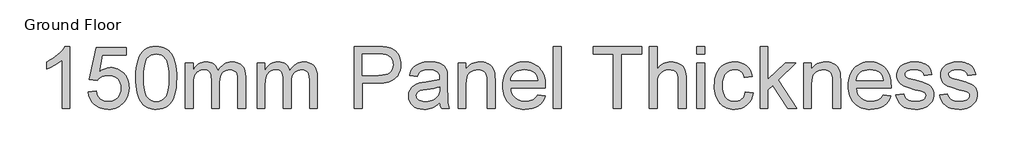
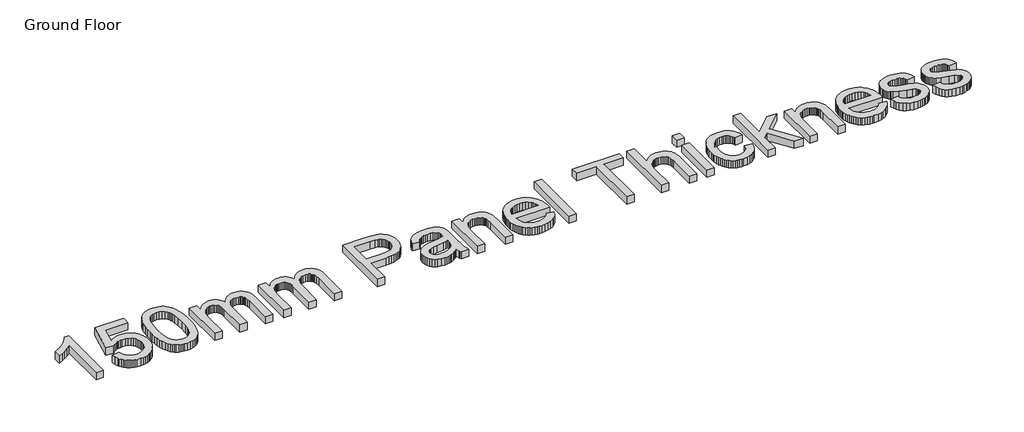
# One storey, part 7 of 7: 1 proxy.
"""IFC4 building model written with IfcOpenShell, lengths in millimetres."""

import ifcopenshell
import ifcopenshell.guid

model = None  # the IFC model being written
_history = None  # IfcOwnerHistory: only IFC2X3 demands one
_inside = {}  # id of a spatial element -> (the spatial element, [elements in it])
_under = {}  # id of a project, library or spatial element -> (it, [spatial elements below it])
_declared = {}  # id of a project -> (the project, [libraries it declares])
_typed = {}  # id of a type object -> (the type object, [elements of that type])
_made_of = {}  # id of a material, layer set ... -> (it, [elements and type objects made of it])


def new_model(schema):
    """Start an empty IFC model of exactly this schema.

    Asked for "IFC4X3", IfcOpenShell would pick the latest addendum, in which some entities
    have other attributes; the version numbers below select the first issue.
    IFC2X3 requires an IfcOwnerHistory on every rooted entity: one is made here for all.
    """
    global model, _history
    if schema == "IFC4X3":
        model = ifcopenshell.file(schema_version=(4, 3, 0, 0))
    else:
        model = ifcopenshell.file(schema=schema)
    _inside.clear()
    _under.clear()
    _declared.clear()
    _typed.clear()
    _made_of.clear()
    _history = None
    if model.schema == "IFC2X3":
        org = make("IfcOrganization", Name="unknown")
        user = make(
            "IfcPersonAndOrganization",
            ThePerson=make("IfcPerson", FamilyName="unknown"),
            TheOrganization=org,
        )
        app = make(
            "IfcApplication",
            ApplicationDeveloper=org,
            Version="unknown",
            ApplicationFullName="unknown",
            ApplicationIdentifier="unknown",
        )
        _history = make(
            "IfcOwnerHistory",
            OwningUser=user,
            OwningApplication=app,
            ChangeAction="ADDED",
            CreationDate=0,
        )
    return model


def make(cls, **values):
    """One entity of the class cls with the attributes given. An attribute that is None is left unset."""
    return model.create_entity(
        cls, **{name: value for name, value in values.items() if value is not None}
    )


def rooted(cls, **values):
    """An entity with a GlobalId (a new one), such as an element, a storey or a relation."""
    return make(cls, GlobalId=ifcopenshell.guid.new(), OwnerHistory=_history, **values)


def si_unit(unit_type, name, prefix=None):
    """IfcSIUnit, for example si_unit("LENGTHUNIT", "METRE", prefix="MILLI")."""
    return make("IfcSIUnit", UnitType=unit_type, Prefix=prefix, Name=name)


def assignment(units):
    """IfcUnitAssignment: the units of a project."""
    return None if units is None else make("IfcUnitAssignment", Units=units)


def point(xyz):
    """IfcCartesianPoint."""
    return None if xyz is None else make("IfcCartesianPoint", Coordinates=xyz)


def direction(xyz):
    """IfcDirection."""
    return None if xyz is None else make("IfcDirection", DirectionRatios=xyz)


def frame(location, z_axis=None, x_axis=None):
    """IfcAxis2Placement3D, a coordinate frame: its origin and axes. An axis left out is left unset."""
    return make(
        "IfcAxis2Placement3D",
        Location=point(location),
        Axis=direction(z_axis),
        RefDirection=direction(x_axis),
    )


def origin():
    """The frame at (0, 0, 0) with its axes left unset."""
    return frame((0.0, 0.0, 0.0))


def origin_with_axes():
    """The frame at (0, 0, 0) with the z axis (0, 0, 1) and the x axis (1, 0, 0) written out."""
    return frame((0.0, 0.0, 0.0), z_axis=(0.0, 0.0, 1.0), x_axis=(1.0, 0.0, 0.0))


def place(relative_to, where):
    """IfcLocalPlacement: puts the frame where relative to a parent placement (None: the world)."""
    return make(
        "IfcLocalPlacement", PlacementRelTo=relative_to, RelativePlacement=where
    )


def context(
    kind, dimensions, precision=None, world=None, true_north=None, identifier=None
):
    """IfcGeometricRepresentationContext, for example the 3D "Model" context."""
    return make(
        "IfcGeometricRepresentationContext",
        ContextIdentifier=identifier,
        ContextType=kind,
        CoordinateSpaceDimension=dimensions,
        Precision=precision,
        WorldCoordinateSystem=world,
        TrueNorth=true_north,
    )


def project(units=None, contexts=None):
    """IfcProject with its units and contexts."""
    return rooted(
        "IfcProject",
        Name="project",
        RepresentationContexts=contexts,
        UnitsInContext=assignment(units),
    )


def spatial(cls, under=None, at=None, **own):
    """A site, building, storey or space (cls), placed at a placement, below another one or the project."""
    s = rooted(cls, ObjectPlacement=at, **own)
    if under is not None:
        _under.setdefault(under.id(), (under, []))[1].append(s)
    return s


def polyline(points):
    """IfcPolyline through the points."""
    return make("IfcPolyline", Points=[point(p) for p in points])


def outline(outer, holes=None, kind="AREA"):
    """IfcArbitraryClosedProfileDef: a profile drawn as a closed curve; with holes, ...WithVoids."""
    if holes is None:
        return make("IfcArbitraryClosedProfileDef", ProfileType=kind, OuterCurve=outer)
    return make(
        "IfcArbitraryProfileDefWithVoids",
        ProfileType=kind,
        OuterCurve=outer,
        InnerCurves=holes,
    )


def extrude(swept, where, along, depth):
    """IfcExtrudedAreaSolid: the profile swept, set in the frame where, extruded along a direction by depth."""
    return make(
        "IfcExtrudedAreaSolid",
        SweptArea=swept,
        Position=where,
        ExtrudedDirection=direction(along),
        Depth=depth,
    )


def shape(context_of_items, identifier, shape_type, items):
    """IfcShapeRepresentation: the items that make up one representation, for example the "Body"."""
    return make(
        "IfcShapeRepresentation",
        ContextOfItems=context_of_items,
        RepresentationIdentifier=identifier,
        RepresentationType=shape_type,
        Items=items,
    )


def made_of(thing, what):
    """Note that an element or type object is made of a material, layer set ...; save() writes the relation."""
    if what is not None:
        _made_of.setdefault(what.id(), (what, []))[1].append(thing)
    return thing


def element(
    cls,
    number,
    at=None,
    inside=None,
    cuts=None,
    type_object=None,
    material=None,
    context=None,
    identifier="Body",
    shape_type=None,
    held_by="IfcProductDefinitionShape",
    body=None,
    shapes=None,
    **own,
):
    """One element of the class cls, such as IfcWall. Its Tag is "e" and its number.

    at: its placement. inside: the storey or other place that contains it. cuts: it is an
    opening in that element (IfcRelVoidsElement). A single representation is given by context,
    identifier, shape_type and body (its items); several are given by shapes. held_by: the class
    of the entity that holds the representations. save() writes the other relations.
    """
    e = rooted(cls, Tag="e%d" % number, ObjectPlacement=at, **own)
    if body is not None:
        shapes = [shape(context, identifier, shape_type, body)]
    if shapes is not None:
        e.Representation = make(held_by, Representations=shapes)
    if inside is not None:
        _inside.setdefault(inside.id(), (inside, []))[1].append(e)
    if cuts is not None:
        rooted(
            "IfcRelVoidsElement", RelatingBuildingElement=cuts, RelatedOpeningElement=e
        )
    if type_object is not None:
        _typed.setdefault(type_object.id(), (type_object, []))[1].append(e)
    return made_of(e, material)


def aggregate(whole, parts):
    """IfcRelAggregates: a whole, such as a stair, and the parts it consists of."""
    return rooted("IfcRelAggregates", RelatingObject=whole, RelatedObjects=parts)


def save(model, path):
    """Write the relations noted so far, then the file.

    IfcRelAggregates (storeys below a building ...), IfcRelContainedInSpatialStructure (elements
    in a storey), IfcRelDefinesByType, IfcRelAssociatesMaterial and IfcRelDeclares: one each for
    every whole, place, type object, material and project.
    """
    for whole, parts in _under.values():
        aggregate(whole, parts)
    for where, things in _inside.values():
        rooted(
            "IfcRelContainedInSpatialStructure",
            RelatedElements=things,
            RelatingStructure=where,
        )
    for kind, things in _typed.values():
        rooted("IfcRelDefinesByType", RelatedObjects=things, RelatingType=kind)
    for what, things in _made_of.values():
        rooted("IfcRelAssociatesMaterial", RelatedObjects=things, RelatingMaterial=what)
    for by, libraries in _declared.values():
        rooted("IfcRelDeclares", RelatingContext=by, RelatedDefinitions=libraries)
    model.write(path)


model = new_model("IFC4")

# Units and contexts
model_context = context("Model", 3, world=origin())
ifc_project = project(units=[si_unit("LENGTHUNIT", "METRE", prefix="MILLI")], contexts=[model_context])

# Site, building, storey
site = spatial("IfcSite", under=ifc_project)
building = spatial("IfcBuilding", under=site)
storey = spatial("IfcBuildingStorey", under=building, Name="Ground Floor", Elevation=0.0)

# Proxy
placement = place(None, origin())
element("IfcBuildingElementProxy", 1, Name="1200mm Arial", ObjectType="1200mm Arial", at=placement, inside=storey, context=model_context, shape_type="SweptSolid", body=[
    extrude(outline(polyline([(11867.9925063, 10511.1336271), (11721.0834154, 10511.1336271), (11721.0834154, 11427.0199908), (11659.7517393, 11377.4166527), (11581.9214836, 11327.8850476), (11500.2176484, 11284.5942095), (11427.2652336, 11253.7131726), (11427.2652336, 11392.5881726), (11486.8842854, 11422.4828814), (11542.647691, 11455.3545078), (11594.5554502, 11491.2030519), (11642.6075631, 11530.0285135), (11685.3693707, 11570.0375689), (11721.4062137, 11609.4368942), (11750.7180922, 11648.2264894), (11773.3050063, 11686.4063544), (11867.9925063, 11686.4063544), (11867.9925063, 10511.1336271)])), origin_with_axes(), (0.0, 0.0, 1.0), 150.0),
    extrude(outline(polyline([(12216.9015972, 10823.3154453), (12363.8106881, 10841.6790817), (12374.7858302, 10794.4518977), (12390.782279, 10753.4834141), (12411.8000347, 10718.7736307), (12437.8390972, 10690.3225476), (12468.8456668, 10668.1660313), (12504.7659438, 10652.3399482), (12545.5999282, 10642.8442983), (12591.3476199, 10639.6790817), (12647.2993245, 10644.0816918), (12696.6515972, 10657.289522), (12739.4044381, 10679.3025725), (12775.5578472, 10710.120843), (12804.3048287, 10748.2200085), (12824.838387, 10792.0757436), (12837.1585219, 10841.6880483), (12841.2652336, 10897.0569226), (12837.4185539, 10949.3861129), (12825.8785148, 10995.904934), (12806.6451164, 11036.6133857), (12779.7183586, 11071.511468), (12745.0085752, 11099.5052536), (12702.4261001, 11119.5008146), (12651.9709332, 11131.4981513), (12593.6430745, 11135.4972635), (12556.3150383, 11133.9012053), (12522.3763841, 11129.1130305), (12491.8271121, 11121.1327394), (12464.6672222, 11109.9603317), (12418.5787989, 11080.6215533), (12382.1743245, 11043.6790817), (12235.2652336, 11062.042718), (12363.8106881, 11668.042718), (12933.0834154, 11668.042718), (12933.0834154, 11521.1336271), (12482.6004609, 11521.1336271), (12419.7623927, 11197.4745362), (12471.6073856, 11234.6322067), (12524.7077052, 11261.1733999), (12579.0633515, 11277.0981158), (12634.6743245, 11282.4063544), (12671.1751901, 11280.7609798), (12706.21898, 11275.8248558), (12739.8056943, 11267.5979826), (12771.935333, 11256.0803601), (12802.607896, 11241.2719883), (12831.8233834, 11223.1728672), (12859.5817952, 11201.7829968), (12885.8831313, 11177.1023771), (12909.8576297, 11149.8348878), (12930.6355283, 11120.6844084), (12948.2168272, 11089.6509389), (12962.6015262, 11056.7344794), (12973.7896254, 11021.9350298), (12981.7811249, 10985.2525902), (12986.5760246, 10946.6871605), (12988.1743245, 10906.2387408), (12982.4177549, 10830.130076), (12965.1480461, 10759.3296499), (12936.3651981, 10693.8374624), (12896.0692109, 10633.6535135), (12866.8200986, 10600.6339379), (12835.0244665, 10572.0169723), (12800.6823145, 10547.8026168), (12763.7936427, 10527.9908715), (12724.3584509, 10512.5817362), (12682.3767393, 10501.5752109), (12637.8485077, 10494.9712958), (12590.7737563, 10492.7699908), (12514.96099, 10498.4279276), (12479.8051173, 10505.5003486), (12446.4829182, 10515.4017379), (12414.9943928, 10528.1320957), (12385.3395411, 10543.6914219), (12357.518363, 10562.0797165), (12331.5308586, 10583.2969794), (12307.8029422, 10606.8500467), (12286.7605283, 10632.2457543), (12268.4036169, 10659.4841021), (12252.732208, 10688.5650902), (12229.4458976, 10752.2549872), (12216.9015972, 10823.3154453)])), origin_with_axes(), (0.0, 0.0, 1.0), 150.0),
    extrude(outline(polyline([(13116.719779, 11089.3012408), (13119.4187314, 11188.1223523), (13127.5155887, 11277.4209141), (13141.0103508, 11357.1969261), (13159.9030177, 11427.4503885), (13184.1128898, 11488.7551648), (13213.5592677, 11541.6851186), (13248.2421512, 11586.24025), (13288.1615404, 11622.420559), (13333.4519346, 11650.4143445), (13384.247833, 11670.4099055), (13440.5492357, 11682.4072422), (13502.3561427, 11686.4063544), (13548.8032307, 11684.0391669), (13592.8831313, 11676.9376044), (13634.5958444, 11665.1016669), (13673.9413699, 11648.5313544), (13709.9692464, 11627.5046321), (13741.729012, 11602.2994652), (13769.2206668, 11572.9158537), (13792.4442109, 11539.3537976), (13812.5653046, 11501.7477962), (13830.7496086, 11460.2323487), (13861.3078472, 11365.4731158), (13872.9823856, 11309.7455767), (13881.3213415, 11245.1410845), (13886.3247151, 11171.6596392), (13887.9925063, 11089.3012408), (13885.3204537, 10991.1077926), (13877.3042961, 10902.2575618), (13863.9440333, 10822.7505483), (13845.2396654, 10752.5867521), (13821.2180922, 10691.255076), (13791.9062137, 10638.2444226), (13757.3040297, 10593.5547919), (13717.4115404, 10557.186184), (13672.0673465, 10529.0040994), (13621.1100489, 10508.8740391), (13564.5396476, 10496.7960028), (13502.3561427, 10492.7699908), (13460.751029, 10494.5184815), (13421.4413699, 10499.7639538), (13384.4271654, 10508.5064077), (13349.7084154, 10520.745843), (13317.2851199, 10536.48226), (13287.157279, 10555.7156584), (13259.3248927, 10578.4460384), (13233.7879609, 10604.6733999), (13206.3501057, 10646.2022972), (13182.5706313, 10693.1739325), (13162.4495376, 10745.5883058), (13145.9868245, 10803.4454169), (13133.1824921, 10866.745266), (13124.0365404, 10935.487853), (13118.5489694, 11009.6731779), (13116.719779, 11089.3012408)]), holes=[polyline([(13263.6288699, 11089.5881726), (13267.9328472, 10961.8766136), (13280.844779, 10858.5004595), (13290.5287279, 10815.9381593), (13302.3646654, 10779.4597102), (13316.3525915, 10749.0651124), (13332.4925063, 10724.7543658), (13368.9328472, 10687.533929), (13409.3902336, 10660.9479027), (13453.8646654, 10644.9962869), (13502.3561427, 10639.6790817), (13550.8476199, 10645.0142202), (13595.3220518, 10661.0196357), (13635.7794381, 10687.6953281), (13672.219779, 10725.0412976), (13688.3596938, 10749.4103272), (13702.3476199, 10779.8363082), (13714.1835574, 10816.3192406), (13723.8675063, 10858.8591243), (13736.7794381, 10962.1097457), (13741.0834154, 11089.5881726), (13736.922904, 11213.9193161), (13724.4413699, 11315.4752465), (13715.0802194, 11357.7125068), (13703.6388131, 11394.2559638), (13690.1171512, 11425.1056176), (13674.5152336, 11450.261468), (13638.6846228, 11489.3021286), (13597.7609722, 11517.1883146), (13551.7442819, 11533.9200263), (13500.6345518, 11539.4972635), (13452.3941398, 11534.5835561), (13408.672904, 11519.842434), (13369.4708444, 11495.273897), (13334.7879609, 11460.8779453), (13318.1100489, 11433.045559), (13303.6558586, 11399.904934), (13291.4253898, 11361.4560703), (13281.4186427, 11317.698968), (13268.0763131, 11214.2600476), (13263.6288699, 11089.5881726)])]), origin_with_axes(), (0.0, 0.0, 1.0), 150.0),
    extrude(outline(polyline([(14053.2652336, 10511.1336271), (14053.2652336, 11374.2245362), (14200.1743245, 11374.2245362), (14200.1743245, 11232.1932862), (14220.6899495, 11266.5802713), (14244.3618245, 11297.4344084), (14271.1899495, 11324.7556975), (14301.1743245, 11348.5441385), (14333.830752, 11367.8134034), (14368.6750347, 11381.5771641), (14405.7071725, 11389.8354205), (14444.9271654, 11392.5881726), (14487.805539, 11389.7816207), (14526.6310006, 11381.3619652), (14561.4035503, 11367.329206), (14592.1231881, 11347.683343), (14618.7002478, 11322.9803068), (14641.0450631, 11293.7760277), (14659.1576341, 11260.0705057), (14673.0379609, 11221.8637408), (14698.8707911, 11261.8772795), (14726.5866114, 11296.5556797), (14756.1854218, 11325.8989414), (14787.6672222, 11349.9070646), (14821.0320127, 11368.5800494), (14856.2797932, 11381.9178956), (14893.4105638, 11389.9206033), (14932.4243245, 11392.5881726), (14991.2363806, 11388.149696), (15042.857208, 11374.8342663), (15087.2868067, 11352.6418835), (15124.5251768, 11321.5725476), (15153.962588, 11281.2675938), (15174.9893103, 11231.3683573), (15187.6053437, 11171.8748381), (15191.8106881, 11102.7870362), (15191.8106881, 10511.1336271), (15044.9015972, 10511.1336271), (15044.9015972, 11039.6620362), (15041.4942819, 11112.9372493), (15031.2723359, 11162.3253885), (15023.0768458, 11180.1420611), (15012.119637, 11196.1474766), (14998.4007094, 11210.341635), (14981.9200631, 11222.7245362), (14963.2784616, 11232.7671499), (14943.0766682, 11239.9404453), (14897.9925063, 11245.6790817), (14856.3604928, 11242.0027678), (14818.4047932, 11230.973826), (14784.1254076, 11212.5922564), (14753.5223359, 11186.858059), (14728.3530354, 11153.0180377), (14710.3749637, 11110.3189965), (14699.5881207, 11058.7609354), (14695.9925063, 10998.3438544), (14695.9925063, 10511.1336271), (14549.0834154, 10511.1336271), (14549.0834154, 11056.0171499), (14546.9583266, 11100.5274482), (14540.5830603, 11139.0839112), (14529.9576164, 11171.6865391), (14515.0819949, 11198.3353317), (14495.3643991, 11219.0482223), (14470.2130319, 11233.8431442), (14439.6278934, 11242.7200973), (14403.6089836, 11245.6790817), (14374.7544026, 11243.7064254), (14347.0116824, 11237.7884567), (14320.3808231, 11227.9251754), (14294.8618245, 11214.1165817), (14271.6203472, 11196.5061413), (14251.8220518, 11175.2373203), (14235.4669381, 11150.3101186), (14222.5550063, 11121.7245362), (14212.763458, 11087.9562479), (14205.7694949, 11047.4809283), (14200.1743245, 10946.4091953), (14200.1743245, 10511.1336271), (14053.2652336, 10511.1336271)])), origin_with_axes(), (0.0, 0.0, 1.0), 150.0),
    extrude(outline(polyline([(15412.1743245, 10511.1336271), (15412.1743245, 11374.2245362), (15559.0834154, 11374.2245362), (15559.0834154, 11232.1932862), (15579.5990404, 11266.5802713), (15603.2709154, 11297.4344084), (15630.0990404, 11324.7556975), (15660.0834154, 11348.5441385), (15692.739843, 11367.8134034), (15727.5841256, 11381.5771641), (15764.6162634, 11389.8354205), (15803.8362563, 11392.5881726), (15846.7146299, 11389.7816207), (15885.5400915, 11381.3619652), (15920.3126412, 11367.329206), (15951.032279, 11347.683343), (15977.6093387, 11322.9803068), (15999.954154, 11293.7760277), (16018.0667251, 11260.0705057), (16031.9470518, 11221.8637408), (16057.779882, 11261.8772795), (16085.4957023, 11296.5556797), (16115.0945127, 11325.8989414), (16146.5763131, 11349.9070646), (16179.9411036, 11368.5800494), (16215.1888841, 11381.9178956), (16252.3196547, 11389.9206033), (16291.3334154, 11392.5881726), (16350.1454715, 11388.149696), (16401.7662989, 11374.8342663), (16446.1958976, 11352.6418835), (16483.4342677, 11321.5725476), (16512.8716789, 11281.2675938), (16533.8984012, 11231.3683573), (16546.5144346, 11171.8748381), (16550.719779, 11102.7870362), (16550.719779, 10511.1336271), (16403.8106881, 10511.1336271), (16403.8106881, 11039.6620362), (16400.4033728, 11112.9372493), (16390.1814268, 11162.3253885), (16381.9859367, 11180.1420611), (16371.0287279, 11196.1474766), (16357.3098003, 11210.341635), (16340.829154, 11222.7245362), (16322.1875525, 11232.7671499), (16301.9857591, 11239.9404453), (16256.9015972, 11245.6790817), (16215.2695837, 11242.0027678), (16177.3138841, 11230.973826), (16143.0344985, 11212.5922564), (16112.4314268, 11186.858059), (16087.2621263, 11153.0180377), (16069.2840546, 11110.3189965), (16058.4972116, 11058.7609354), (16054.9015972, 10998.3438544), (16054.9015972, 10511.1336271), (15907.9925063, 10511.1336271), (15907.9925063, 11056.0171499), (15905.8674175, 11100.5274482), (15899.4921512, 11139.0839112), (15888.8667073, 11171.6865391), (15873.9910859, 11198.3353317), (15854.27349, 11219.0482223), (15829.1221228, 11233.8431442), (15798.5369843, 11242.7200973), (15762.5180745, 11245.6790817), (15733.6634935, 11243.7064254), (15705.9207734, 11237.7884567), (15679.289914, 11227.9251754), (15653.7709154, 11214.1165817), (15630.5294381, 11196.5061413), (15610.7311427, 11175.2373203), (15594.376029, 11150.3101186), (15581.4640972, 11121.7245362), (15571.6725489, 11087.9562479), (15564.6785859, 11047.4809283), (15559.0834154, 10946.4091953), (15559.0834154, 10511.1336271), (15412.1743245, 10511.1336271)])), origin_with_axes(), (0.0, 0.0, 1.0), 150.0),
    extrude(outline(polyline([(17248.5379609, 10511.1336271), (17248.5379609, 11686.4063544), (17684.1004609, 11686.4063544), (17785.5308586, 11683.6087692), (17859.7027336, 11675.2160135), (17900.581551, 11666.4018267), (17937.9992535, 11654.3058573), (17971.9558408, 11638.9281051), (18002.4513131, 11620.2685703), (18029.8084687, 11597.9416882), (18054.3501057, 11571.5618942), (18076.0762243, 11541.1291882), (18094.9868245, 11506.6435703), (18110.3018103, 11469.2438011), (18121.2410859, 11430.0686413), (18127.8046512, 11389.1180909), (18129.9925063, 11346.3921499), (18124.0835042, 11274.2467308), (18116.6972515, 11240.3394599), (18106.3564978, 11207.8758146), (18093.061243, 11176.8557951), (18076.8114871, 11147.2794013), (18057.6072302, 11119.1466332), (18035.4484722, 11092.4574908), (18009.4340679, 11068.1131193), (17978.6628721, 11047.0146641), (17943.1348847, 11029.162125), (17902.8501057, 11014.5555021), (17857.8085352, 11003.1947955), (17808.0101732, 10995.080005), (17753.4550196, 10990.2111307), (17694.1430745, 10988.5881726), (17395.4470518, 10988.5881726), (17395.4470518, 10511.1336271), (17248.5379609, 10511.1336271)]), holes=[polyline([(17395.4470518, 11135.4972635), (17702.751029, 11135.4972635), (17773.4079893, 11138.8687124), (17833.0180745, 11148.983059), (17881.5812847, 11165.8403033), (17919.0976199, 11189.4404453), (17947.0914055, 11219.1558217), (17967.0869665, 11254.3587692), (17979.0843032, 11295.0492877), (17983.0834154, 11341.2273771), (17980.7251945, 11375.5157294), (17973.6505319, 11407.2216953), (17961.8594275, 11436.3452749), (17945.3518813, 11462.886468), (17925.0066221, 11485.9844794), (17901.7023785, 11504.7785135), (17875.4391505, 11519.2685703), (17846.2169381, 11529.4546499), (17789.547904, 11536.9866101), (17699.3078472, 11539.4972635), (17395.4470518, 11539.4972635), (17395.4470518, 11135.4972635)])]), origin_with_axes(), (0.0, 0.0, 1.0), 150.0),
    extrude(outline(polyline([(18864.5379609, 10621.3154453), (18829.7026448, 10588.6231513), (18794.3472648, 10561.1314965), (18758.4718209, 10538.8404808), (18722.0763131, 10521.7501044), (18684.7482769, 10509.0713047), (18646.0752478, 10500.0150192), (18606.0572258, 10494.5812479), (18564.6942109, 10492.7699908), (18499.2827229, 10497.1277678), (18441.9232591, 10510.2010987), (18392.6158195, 10531.9899837), (18351.360404, 10562.4944226), (18318.784676, 10599.7776257), (18295.5162989, 10641.9028033), (18281.5552726, 10688.8699553), (18276.9015972, 10740.6790817), (18278.6590546, 10771.8291172), (18283.9314268, 10801.5803601), (18292.7187137, 10829.9328104), (18305.0209154, 10856.886468), (18320.1834687, 10881.8495362), (18337.5518103, 10904.230218), (18357.1259403, 10924.0285135), (18378.9058586, 10941.2444226), (18427.5049353, 10969.2202749), (18481.7709154, 10989.448968), (18534.6381029, 11000.7110419), (18608.8817109, 11011.542718), (18759.0905177, 11034.7841953), (18817.0866114, 11047.911326), (18863.6771654, 11062.042718), (18864.5379609, 11094.7529453), (18862.0093742, 11130.3683573), (18854.4236143, 11160.3168658), (18841.780681, 11184.5984709), (18824.0805745, 11203.2131726), (18793.4864694, 11221.7920078), (18756.2211995, 11235.0626044), (18712.2847648, 11243.0249624), (18661.6771654, 11245.6790817), (18614.6203472, 11243.9126577), (18574.1629609, 11238.6133857), (18540.3050063, 11229.7812656), (18513.0464836, 11217.4162976), (18490.6478685, 11200.5500867), (18471.369637, 11178.2142379), (18455.211789, 11150.4087514), (18442.1743245, 11117.1336271), (18295.2652336, 11135.4972635), (18306.4466079, 11177.8197067), (18320.7662989, 11215.8381726), (18338.2243067, 11249.5526612), (18358.8206313, 11278.9631726), (18383.442968, 11304.6615036), (18412.979012, 11327.239451), (18447.4287634, 11346.6970149), (18486.7922222, 11363.0341953), (18530.2713593, 11375.9640604), (18577.0681455, 11385.1996783), (18627.1825809, 11390.741049), (18680.6146654, 11392.5881726), (18732.8452229, 11390.9562479), (18779.928941, 11386.0604737), (18821.8658195, 11377.9008502), (18858.6558586, 11366.4773771), (18890.6039232, 11352.5880838), (18918.0148785, 11337.0309993), (18940.8887243, 11319.8061236), (18959.2254609, 11300.9134567), (18974.0921157, 11279.8867344), (18986.5557165, 11256.2596925), (19004.2737563, 11201.2046499), (19009.6537279, 11150.417718), (19011.4470518, 11072.6591953), (19011.4470518, 10889.8836271), (19013.3121086, 10730.6723345), (19018.907279, 10634.6577749), (19029.954154, 10571.5686413), (19048.1743245, 10511.1336271), (18901.2652336, 10511.1336271), (18888.2098359, 10535.6662976), (18877.7368245, 10562.2074908), (18864.5379609, 10621.3154453)]), holes=[polyline([(18864.5379609, 10915.1336271), (18820.135262, 10902.4189609), (18765.8334154, 10890.6726896), (18627.532279, 10870.0853317), (18551.3160148, 10858.8232578), (18501.1388131, 10846.2699908), (18468.2492535, 10829.9866101), (18443.8959154, 10807.5341953), (18428.8319949, 10780.6343374), (18423.8106881, 10751.0086271), (18426.545507, 10728.1796144), (18434.7499637, 10707.3232578), (18448.4240582, 10688.4395575), (18467.5677904, 10671.5285135), (18492.001828, 10657.5943871), (18521.5468387, 10647.6414396), (18556.2028224, 10641.6696712), (18595.969779, 10639.6790817), (18636.5706313, 10641.8759034), (18674.876029, 10648.4663686), (18710.8859722, 10659.4504773), (18744.6004609, 10674.8282294), (18775.0152336, 10693.3263651), (18801.126029, 10713.6716243), (18822.9328472, 10735.8640071), (18840.4356881, 10759.9035135), (18850.6038344, 10781.4233999), (18857.8667961, 10807.5341953), (18862.2245731, 10838.2358999), (18863.6771654, 10873.5285135), (18864.5379609, 10915.1336271)])]), origin_with_axes(), (0.0, 0.0, 1.0), 150.0),
    extrude(outline(polyline([(19213.4470518, 10511.1336271), (19213.4470518, 11374.2245362), (19360.3561427, 11374.2245362), (19360.3561427, 11253.7131726), (19384.5929147, 11286.2620007), (19411.3941398, 11314.4709851), (19440.7598181, 11338.3401257), (19472.6899495, 11357.8694226), (19507.184534, 11373.0588757), (19544.2435716, 11383.9084851), (19583.8670624, 11390.4182507), (19626.0550063, 11392.5881726), (19663.0243778, 11390.8396818), (19698.4694239, 11385.5942095), (19732.3901448, 11376.8517557), (19764.7865404, 11364.6123203), (19794.4301839, 11349.5304666), (19820.0926484, 11332.2607578), (19841.7739339, 11312.8031939), (19859.4740404, 11291.1577749), (19886.194566, 11241.4109709), (19903.5180745, 11183.1279453), (19909.3284438, 11127.3914396), (19911.2652336, 11041.0966953), (19911.2652336, 10511.1336271), (19764.3561427, 10511.1336271), (19764.3561427, 11021.2983999), (19760.1238984, 11097.2635987), (19754.833593, 11127.0148416), (19747.4271654, 11151.2785135), (19737.3397187, 11171.7134389), (19724.0063557, 11189.9784425), (19707.4270766, 11206.0735242), (19687.6018813, 11219.998684), (19665.2122329, 11231.233858), (19640.9395944, 11239.2589823), (19614.7839658, 11244.0740568), (19586.7453472, 11245.6790817), (19542.1364161, 11242.0745007), (19500.7016682, 11231.2607578), (19462.4411036, 11213.237853), (19427.3547222, 11188.0057862), (19411.6519301, 11171.9689876), (19398.0428437, 11152.6952394), (19386.5274628, 11130.1845416), (19377.1057876, 11104.4368942), (19364.5435539, 11043.2307507), (19360.3561427, 10969.076809), (19360.3561427, 10511.1336271), (19213.4470518, 10511.1336271)])), origin_with_axes(), (0.0, 0.0, 1.0), 150.0),
    extrude(outline(polyline([(20717.5436427, 10768.2245362), (20861.5834154, 10749.8608999), (20839.498632, 10692.1696712), (20809.6846228, 10641.3289396), (20772.1413877, 10597.3387053), (20726.8689268, 10560.198968), (20674.3335042, 10530.6987905), (20615.0013841, 10509.6272351), (20548.8725667, 10496.9843019), (20475.9470518, 10492.7699908), (20429.127849, 10494.5879728), (20384.7923998, 10500.041919), (20342.9407041, 10509.1318294), (20303.572762, 10521.8577038), (20266.6885734, 10538.2195424), (20232.2881384, 10558.2173452), (20200.3714569, 10581.851112), (20170.938529, 10609.120843), (20144.5094186, 10639.6723567), (20121.6041895, 10673.1514716), (20102.2228419, 10709.5581877), (20086.3653756, 10748.892505), (20074.0317908, 10791.1544235), (20065.2220873, 10836.3439432), (20059.9362652, 10884.4610641), (20058.1743245, 10935.5057862), (20059.9541984, 10988.2877908), (20065.2938202, 11038.0301115), (20074.1931899, 11084.7327482), (20086.6523074, 11128.395701), (20102.6711729, 11169.0189698), (20122.2497861, 11206.6025547), (20145.3881473, 11241.1464556), (20172.0862563, 11272.6506726), (20201.6223003, 11300.7610242), (20233.2744665, 11325.1233288), (20267.0427549, 11345.7375867), (20302.9271654, 11362.6037976), (20340.9276981, 11375.7219617), (20381.0443529, 11385.0920788), (20423.2771299, 11390.7141492), (20467.626029, 11392.5881726), (20510.5245775, 11390.7186325), (20551.4190866, 11385.1100121), (20590.3095562, 11375.7623114), (20627.1959864, 11362.6755305), (20662.0783772, 11345.8496694), (20694.9567286, 11325.284728), (20725.8310406, 11300.9807063), (20754.7013131, 11272.9376044), (20780.8278002, 11241.5051204), (20803.4707556, 11207.0329524), (20822.6301794, 11169.5211005), (20838.3060716, 11128.9695646), (20850.4984323, 11085.3783448), (20859.2072613, 11038.7474411), (20864.4325587, 10989.0768533), (20866.1743245, 10936.3665817), (20865.313529, 10896.7699908), (20205.0834154, 10896.7699908), (20213.5927371, 10838.1462337), (20230.5127478, 10786.8033715), (20255.8434474, 10742.7414041), (20289.5848359, 10705.9603317), (20329.8718564, 10676.9622848), (20374.8394523, 10656.2493942), (20424.4876235, 10643.8216598), (20478.8163699, 10639.6790817), (20519.4530887, 10641.5979382), (20557.0052904, 10647.3545078), (20591.4729751, 10656.9487905), (20622.8561427, 10670.3807862), (20651.1547932, 10688.0091598), (20676.3689268, 10710.192576), (20698.4985432, 10736.9310348), (20717.5436427, 10768.2245362)]), holes=[polyline([(20205.0834154, 11043.6790817), (20719.2652336, 11043.6790817), (20711.7153401, 11085.2483288), (20699.3952052, 11121.2941385), (20682.3048287, 11151.8165107), (20660.4442109, 11176.8154453), (20620.3813557, 11206.9432862), (20574.7950631, 11228.4631726), (20523.685333, 11241.3751044), (20467.0521654, 11245.6790817), (20415.3954715, 11242.2448665), (20368.0248216, 11231.9422209), (20324.9402158, 11214.7711449), (20286.141654, 11190.7316385), (20253.5838593, 11160.9355625), (20229.2215546, 11126.4947777), (20213.05474, 11087.4092841), (20205.0834154, 11043.6790817)])]), origin_with_axes(), (0.0, 0.0, 1.0), 150.0),
    extrude(outline(polyline([(21013.0834154, 10511.1336271), (21013.0834154, 11686.4063544), (21159.9925063, 11686.4063544), (21159.9925063, 10511.1336271), (21013.0834154, 10511.1336271)])), origin_with_axes(), (0.0, 0.0, 1.0), 150.0),
    extrude(outline(polyline([(22151.6288699, 10511.1336271), (22151.6288699, 11539.4972635), (21765.9925063, 11539.4972635), (21765.9925063, 11686.4063544), (22684.1743245, 11686.4063544), (22684.1743245, 11539.4972635), (22298.5379609, 11539.4972635), (22298.5379609, 10511.1336271), (22151.6288699, 10511.1336271)])), origin_with_axes(), (0.0, 0.0, 1.0), 150.0),
    extrude(outline(polyline([(22831.0834154, 10511.1336271), (22831.0834154, 11686.4063544), (22977.9925063, 11686.4063544), (22977.9925063, 11254.2870362), (23004.1436515, 11286.7013651), (23031.9536214, 11314.7937834), (23061.4224158, 11338.5642912), (23092.5500347, 11358.0128885), (23125.3364783, 11373.1395753), (23159.7817464, 11383.9443516), (23195.885839, 11390.4272173), (23233.6487563, 11392.5881726), (23279.5757805, 11390.2299517), (23322.3824211, 11383.1552891), (23362.0686782, 11371.3641847), (23398.6345518, 11354.8566385), (23431.1475134, 11334.188581), (23458.6750347, 11309.9159425), (23481.2171157, 11282.038723), (23498.7737563, 11250.5569226), (23511.9546867, 11213.5247848), (23521.369637, 11168.9965533), (23527.0186072, 11116.972228), (23528.9015972, 11057.451809), (23528.9015972, 10511.1336271), (23381.9925063, 10511.1336271), (23381.9925063, 11042.2444226), (23379.0693884, 11091.8477607), (23370.3000347, 11134.2060703), (23355.6844452, 11169.3193516), (23335.2226199, 11197.1876044), (23309.3987563, 11218.4026257), (23278.6970518, 11233.5562124), (23243.1175063, 11242.6483644), (23202.6601199, 11245.6790817), (23171.142453, 11243.6346925), (23140.5752478, 11237.5015249), (23110.9585042, 11227.2795788), (23082.2922222, 11212.9688544), (23056.127627, 11195.1611484), (23034.0159438, 11174.4482578), (23015.9571725, 11150.8301825), (23001.9513131, 11124.3069226), (22991.4693351, 11093.6590178), (22983.982208, 11057.6670078), (22979.4899317, 11016.3308928), (22977.9925063, 10969.6506726), (22977.9925063, 10511.1336271), (22831.0834154, 10511.1336271)])), origin_with_axes(), (0.0, 0.0, 1.0), 150.0),
    extrude(outline(polyline([(23730.9015972, 10511.1336271), (23730.9015972, 11374.2245362), (23877.8106881, 11374.2245362), (23877.8106881, 10511.1336271), (23730.9015972, 10511.1336271)])), origin_with_axes(), (0.0, 0.0, 1.0), 150.0),
    extrude(outline(polyline([(23730.9015972, 11539.4972635), (23730.9015972, 11686.4063544), (23877.8106881, 11686.4063544), (23877.8106881, 11539.4972635), (23730.9015972, 11539.4972635)])), origin_with_axes(), (0.0, 0.0, 1.0), 150.0),
    extrude(outline(polyline([(24649.0834154, 10823.3154453), (24795.9925063, 10804.951809), (24780.0139907, 10735.630875), (24755.0329893, 10674.2902323), (24721.049502, 10620.9298807), (24678.063529, 10575.5498203), (24627.8863273, 10539.3336449), (24572.329154, 10513.4649482), (24511.3920091, 10497.9437301), (24445.0748927, 10492.7699908), (24402.8129742, 10494.5745229), (24362.6806278, 10499.9881193), (24324.6778534, 10509.01078), (24288.8046512, 10521.642505), (24255.061021, 10537.8832942), (24223.446963, 10557.7331477), (24193.962477, 10581.1920655), (24166.6075631, 10608.2600476), (24141.9605683, 10638.6994785), (24120.5998394, 10672.2727429), (24102.5253765, 10708.9798407), (24087.7371796, 10748.820772), (24076.2352487, 10791.7955368), (24068.0195837, 10837.904135), (24063.0901848, 10887.1465666), (24061.4470518, 10939.5228317), (24064.2536036, 11007.068375), (24072.6732591, 11070.2561413), (24086.7060184, 11129.0861307), (24106.3518813, 11183.558343), (24131.7453472, 11232.5788509), (24163.0209154, 11275.0537266), (24200.1785859, 11310.9829702), (24243.2183586, 11340.3665817), (24290.1944772, 11363.2135277), (24339.1611853, 11379.5327749), (24390.1184829, 11389.3243232), (24443.0663699, 11392.5881726), (24508.2447258, 11388.1048629), (24567.2002478, 11374.654934), (24619.932936, 11352.2383857), (24666.4427904, 11320.855218), (24705.9407485, 11281.2227607), (24737.6377478, 11234.058343), (24761.5337883, 11179.3619652), (24777.6288699, 11117.1336271), (24630.719779, 11098.7699908), (24619.2514729, 11133.0852429), (24604.0709864, 11162.8633857), (24585.1783195, 11188.104419), (24562.5734722, 11208.808343), (24536.8303082, 11224.9392912), (24508.522691, 11236.461397), (24477.6506207, 11243.3746605), (24444.2140972, 11245.6790817), (24394.2969275, 11241.1419723), (24349.2755319, 11227.5306442), (24309.1499104, 11204.8450973), (24273.9200631, 11173.0853317), (24258.5535193, 11153.6188011), (24245.2358479, 11131.5160845), (24224.7471228, 11079.402093), (24212.4538877, 11016.7433573), (24208.3561427, 10943.5398771), (24212.3642215, 10869.2335028), (24224.388458, 10805.8484709), (24244.4288522, 10753.3847813), (24257.4551084, 10731.2484398), (24272.485404, 10711.842434), (24307.015855, 10680.2709673), (24346.4779466, 10657.7199198), (24390.8716789, 10644.1892912), (24440.1970518, 10639.6790817), (24479.9460752, 10642.4946002), (24516.2698501, 10650.9411555), (24549.1683763, 10665.0187479), (24578.641654, 10684.7273771), (24603.8647542, 10710.2822422), (24624.0127478, 10741.8985419), (24639.0856349, 10779.5762763), (24649.0834154, 10823.3154453)])), origin_with_axes(), (0.0, 0.0, 1.0), 150.0),
    extrude(outline(polyline([(24924.5379609, 10511.1336271), (24924.5379609, 11686.4063544), (25071.4470518, 11686.4063544), (25071.4470518, 11054.8694226), (25400.844779, 11374.2245362), (25603.9925063, 11374.2245362), (25270.5777336, 11050.8523771), (25622.3561427, 10511.1336271), (25450.7709154, 10511.1336271), (25165.2737563, 10948.7046499), (25071.4470518, 10857.7472635), (25071.4470518, 10511.1336271), (24924.5379609, 10511.1336271)])), origin_with_axes(), (0.0, 0.0, 1.0), 150.0),
    extrude(outline(polyline([(25750.9015972, 10511.1336271), (25750.9015972, 11374.2245362), (25897.8106881, 11374.2245362), (25897.8106881, 11253.7131726), (25922.0474601, 11286.2620007), (25948.8486853, 11314.4709851), (25978.2143635, 11338.3401257), (26010.1444949, 11357.8694226), (26044.6390795, 11373.0588757), (26081.6981171, 11383.9084851), (26121.3216079, 11390.4182507), (26163.5095518, 11392.5881726), (26200.4789232, 11390.8396818), (26235.9239694, 11385.5942095), (26269.8446903, 11376.8517557), (26302.2410859, 11364.6123203), (26331.8847293, 11349.5304666), (26357.5471938, 11332.2607578), (26379.2284793, 11312.8031939), (26396.9285859, 11291.1577749), (26423.6491114, 11241.4109709), (26440.9726199, 11183.1279453), (26446.7829893, 11127.3914396), (26448.719779, 11041.0966953), (26448.719779, 10511.1336271), (26301.8106881, 10511.1336271), (26301.8106881, 11021.2983999), (26297.5784438, 11097.2635987), (26292.2881384, 11127.0148416), (26284.8817109, 11151.2785135), (26274.7942641, 11171.7134389), (26261.4609012, 11189.9784425), (26244.8816221, 11206.0735242), (26225.0564268, 11219.998684), (26202.6667783, 11231.233858), (26178.3941398, 11239.2589823), (26152.2385113, 11244.0740568), (26124.1998927, 11245.6790817), (26079.5909616, 11242.0745007), (26038.1562137, 11231.2607578), (25999.8956491, 11213.237853), (25964.8092677, 11188.0057862), (25949.1064756, 11171.9689876), (25935.4973891, 11152.6952394), (25923.9820083, 11130.1845416), (25914.560333, 11104.4368942), (25901.9980993, 11043.2307507), (25897.8106881, 10969.076809), (25897.8106881, 10511.1336271), (25750.9015972, 10511.1336271)])), origin_with_axes(), (0.0, 0.0, 1.0), 150.0),
    extrude(outline(polyline([(27254.9981881, 10768.2245362), (27399.0379609, 10749.8608999), (27376.9531775, 10692.1696712), (27347.1391682, 10641.3289396), (27309.5959332, 10597.3387053), (27264.3234722, 10560.198968), (27211.7880496, 10530.6987905), (27152.4559296, 10509.6272351), (27086.3271121, 10496.9843019), (27013.4015972, 10492.7699908), (26966.5823944, 10494.5879728), (26922.2469452, 10500.041919), (26880.3952496, 10509.1318294), (26841.0273074, 10521.8577038), (26804.1431189, 10538.2195424), (26769.7426839, 10558.2173452), (26737.8260024, 10581.851112), (26708.3930745, 10609.120843), (26681.963964, 10639.6723567), (26659.058735, 10673.1514716), (26639.6773873, 10709.5581877), (26623.8199211, 10748.892505), (26611.4863362, 10791.1544235), (26602.6766327, 10836.3439432), (26597.3908106, 10884.4610641), (26595.6288699, 10935.5057862), (26597.4087439, 10988.2877908), (26602.7483657, 11038.0301115), (26611.6477354, 11084.7327482), (26624.1068529, 11128.395701), (26640.1257183, 11169.0189698), (26659.7043316, 11206.6025547), (26682.8426927, 11241.1464556), (26709.5408018, 11272.6506726), (26739.0768458, 11300.7610242), (26770.729012, 11325.1233288), (26804.4973003, 11345.7375867), (26840.3817109, 11362.6037976), (26878.3822435, 11375.7219617), (26918.4988984, 11385.0920788), (26960.7316753, 11390.7141492), (27005.0805745, 11392.5881726), (27047.979123, 11390.7186325), (27088.873632, 11385.1100121), (27127.7641017, 11375.7623114), (27164.6505319, 11362.6755305), (27199.5329227, 11345.8496694), (27232.4112741, 11325.284728), (27263.285586, 11300.9807063), (27292.1558586, 11272.9376044), (27318.2823456, 11241.5051204), (27340.925301, 11207.0329524), (27360.0847249, 11169.5211005), (27375.7606171, 11128.9695646), (27387.9529777, 11085.3783448), (27396.6618067, 11038.7474411), (27401.8871041, 10989.0768533), (27403.6288699, 10936.3665817), (27402.7680745, 10896.7699908), (26742.5379609, 10896.7699908), (26751.0472826, 10838.1462337), (26767.9672932, 10786.8033715), (26793.2979928, 10742.7414041), (26827.0393813, 10705.9603317), (26867.3264019, 10676.9622848), (26912.2939978, 10656.2493942), (26961.9421689, 10643.8216598), (27016.2709154, 10639.6790817), (27056.9076341, 10641.5979382), (27094.4598359, 10647.3545078), (27128.9275205, 10656.9487905), (27160.3106881, 10670.3807862), (27188.6093387, 10688.0091598), (27213.8234722, 10710.192576), (27235.9530887, 10736.9310348), (27254.9981881, 10768.2245362)]), holes=[polyline([(26742.5379609, 11043.6790817), (27256.719779, 11043.6790817), (27249.1698856, 11085.2483288), (27236.8497506, 11121.2941385), (27219.7593742, 11151.8165107), (27197.8987563, 11176.8154453), (27157.8359012, 11206.9432862), (27112.2496086, 11228.4631726), (27061.1398785, 11241.3751044), (27004.5067109, 11245.6790817), (26952.850017, 11242.2448665), (26905.4793671, 11231.9422209), (26862.3947613, 11214.7711449), (26823.5961995, 11190.7316385), (26791.0384047, 11160.9355625), (26766.6761001, 11126.4947777), (26750.5092854, 11087.4092841), (26742.5379609, 11043.6790817)])]), origin_with_axes(), (0.0, 0.0, 1.0), 150.0),
    extrude(outline(polyline([(27495.4470518, 10768.2245362), (27642.3561427, 10786.5881726), (27651.2330958, 10753.0888828), (27665.525887, 10723.7501044), (27685.2345162, 10698.5718374), (27710.3589836, 10677.5540817), (27740.9710219, 10660.9837692), (27777.1423643, 10649.1478317), (27818.8730106, 10642.0462692), (27866.1629609, 10639.6790817), (27913.3991114, 10641.8490036), (27954.1075631, 10648.3587692), (27988.288316, 10659.2083786), (28015.9413699, 10674.3978317), (28037.2819239, 10692.5104027), (28052.5251768, 10712.1293658), (28061.6711285, 10733.2547209), (28064.719779, 10755.886468), (28061.6531952, 10775.72063), (28052.4534438, 10793.3310703), (28037.1205248, 10808.7177891), (28015.6544381, 10821.8807862), (27960.635262, 10840.5313544), (27864.4413699, 10863.7728317), (27730.3724779, 10902.5444936), (27643.2169381, 10935.6492521), (27613.2953295, 10952.2464645), (27587.2293671, 10971.7667948), (27565.019051, 10994.2102429), (27546.6643813, 11019.576809), (27532.2908905, 11047.1043303), (27522.0241114, 11076.0306442), (27515.8640439, 11106.3557507), (27513.8106881, 11138.0796499), (27515.4605461, 11167.0866634), (27520.4101199, 11194.9997493), (27528.6594097, 11221.8189077), (27540.2084154, 11247.5441385), (27554.608806, 11271.6553778), (27571.4122506, 11293.6325618), (27590.6187492, 11313.4756903), (27612.2283018, 11331.1847635), (27652.7932876, 11354.820772), (27705.6246086, 11374.654934), (27766.7052194, 11388.1048629), (27832.0180745, 11392.5881726), (27881.3882805, 11390.7858821), (27927.6381029, 11385.3790107), (27970.7675418, 11376.3675582), (28010.7765972, 11363.7515249), (28046.7148074, 11348.0599411), (28077.6317109, 11329.8218374), (28103.5273074, 11309.0372138), (28124.4015972, 11285.7060703), (28141.3305745, 11259.0124446), (28155.3902336, 11228.1403743), (28166.5805745, 11193.0898594), (28174.9015972, 11153.8608999), (28027.9925063, 11135.4972635), (28020.9895766, 11160.0389006), (28009.4495376, 11181.7291527), (27993.3723891, 11200.5680199), (27972.7581313, 11216.5555021), (27947.5170979, 11229.2970682), (27917.5596228, 11238.3981868), (27882.8857059, 11243.858858), (27843.4953472, 11245.6790817), (27797.8014552, 11243.9395575), (27759.1373927, 11238.7209851), (27727.5031597, 11230.0233644), (27702.8987563, 11217.8466953), (27684.4454537, 11203.3566385), (27671.2645234, 11187.7188544), (27663.3559651, 11170.933343), (27660.719779, 11153.0001044), (27665.0954893, 11130.4042237), (27678.2226199, 11110.2472635), (27700.6750347, 11092.2422919), (27733.0265972, 11077.823968), (27859.563529, 11046.5483999), (27989.3643103, 11008.1712692), (28075.1927904, 10977.3978317), (28105.3923643, 10962.3877109), (28132.1487563, 10944.3289396), (28155.4619665, 10923.2215178), (28175.3319949, 10899.0654453), (28191.2118778, 10871.8248558), (28202.5546512, 10841.4638828), (28209.3603153, 10807.9825263), (28211.6288699, 10771.3807862), (28208.965784, 10734.617647), (28200.9765262, 10698.9305021), (28187.6610965, 10664.3193516), (28169.0194949, 10630.7841953), (28145.3565866, 10599.6610597), (28116.9772364, 10572.2859709), (28083.8814445, 10548.658929), (28046.0692109, 10528.779934), (28004.5716966, 10513.0255838), (27960.4200631, 10501.7724766), (27913.6143103, 10495.0206122), (27864.1544381, 10492.7699908), (27785.086789, 10497.1098345), (27716.025887, 10510.1293658), (27656.9717322, 10531.8285845), (27607.9243245, 10562.2074908), (27567.8614694, 10601.1226186), (27535.7609722, 10648.4305021), (27511.622833, 10704.1311413), (27495.4470518, 10768.2245362)])), origin_with_axes(), (0.0, 0.0, 1.0), 150.0),
    extrude(outline(polyline([(28321.8106881, 10768.2245362), (28468.719779, 10786.5881726), (28477.5967322, 10753.0888828), (28491.8895234, 10723.7501044), (28511.5981526, 10698.5718374), (28536.7226199, 10677.5540817), (28567.3346583, 10660.9837692), (28603.5060006, 10649.1478317), (28645.2366469, 10642.0462692), (28692.5265972, 10639.6790817), (28739.7627478, 10641.8490036), (28780.4711995, 10648.3587692), (28814.6519523, 10659.2083786), (28842.3050063, 10674.3978317), (28863.6455603, 10692.5104027), (28878.8888131, 10712.1293658), (28888.0347648, 10733.2547209), (28891.0834154, 10755.886468), (28888.0168316, 10775.72063), (28878.8170802, 10793.3310703), (28863.4841611, 10808.7177891), (28842.0180745, 10821.8807862), (28786.9988984, 10840.5313544), (28690.8050063, 10863.7728317), (28556.7361143, 10902.5444936), (28469.5805745, 10935.6492521), (28439.6589658, 10952.2464645), (28413.5930035, 10971.7667948), (28391.3826874, 10994.2102429), (28373.0280177, 11019.576809), (28358.6545269, 11047.1043303), (28348.3877478, 11076.0306442), (28342.2276803, 11106.3557507), (28340.1743245, 11138.0796499), (28341.8241824, 11167.0866634), (28346.7737563, 11194.9997493), (28355.0230461, 11221.8189077), (28366.5720518, 11247.5441385), (28380.9724424, 11271.6553778), (28397.775887, 11293.6325618), (28416.9823856, 11313.4756903), (28438.5919381, 11331.1847635), (28479.1569239, 11354.820772), (28531.9882449, 11374.654934), (28593.0688557, 11388.1048629), (28658.3817109, 11392.5881726), (28707.7519168, 11390.7858821), (28754.0017393, 11385.3790107), (28797.1311782, 11376.3675582), (28837.1402336, 11363.7515249), (28873.0784438, 11348.0599411), (28903.9953472, 11329.8218374), (28929.8909438, 11309.0372138), (28950.7652336, 11285.7060703), (28967.6942109, 11259.0124446), (28981.7538699, 11228.1403743), (28992.9442109, 11193.0898594), (29001.2652336, 11153.8608999), (28854.3561427, 11135.4972635), (28847.353213, 11160.0389006), (28835.8131739, 11181.7291527), (28819.7360255, 11200.5680199), (28799.1217677, 11216.5555021), (28773.8807343, 11229.2970682), (28743.9232591, 11238.3981868), (28709.2493422, 11243.858858), (28669.8589836, 11245.6790817), (28624.1650915, 11243.9395575), (28585.501029, 11238.7209851), (28553.8667961, 11230.0233644), (28529.2623927, 11217.8466953), (28510.8090901, 11203.3566385), (28497.6281597, 11187.7188544), (28489.7196015, 11170.933343), (28487.0834154, 11153.0001044), (28491.4591256, 11130.4042237), (28504.5862563, 11110.2472635), (28527.0386711, 11092.2422919), (28559.3902336, 11077.823968), (28685.9271654, 11046.5483999), (28815.7279466, 11008.1712692), (28901.5564268, 10977.3978317), (28931.7560006, 10962.3877109), (28958.5123927, 10944.3289396), (28981.8256029, 10923.2215178), (29001.6956313, 10899.0654453), (29017.5755141, 10871.8248558), (29028.9182876, 10841.4638828), (29035.7239516, 10807.9825263), (29037.9925063, 10771.3807862), (29035.3294204, 10734.617647), (29027.3401626, 10698.9305021), (29014.0247329, 10664.3193516), (28995.3831313, 10630.7841953), (28971.7202229, 10599.6610597), (28943.3408728, 10572.2859709), (28910.2450809, 10548.658929), (28872.4328472, 10528.779934), (28830.935333, 10513.0255838), (28786.7836995, 10501.7724766), (28739.9779466, 10495.0206122), (28690.5180745, 10492.7699908), (28611.4504253, 10497.1098345), (28542.3895234, 10510.1293658), (28483.3353685, 10531.8285845), (28434.2879609, 10562.2074908), (28394.2251057, 10601.1226186), (28362.1246086, 10648.4305021), (28337.9864694, 10704.1311413), (28321.8106881, 10768.2245362)])), origin_with_axes(), (0.0, 0.0, 1.0), 150.0),
])

save(model, "model.ifc")
